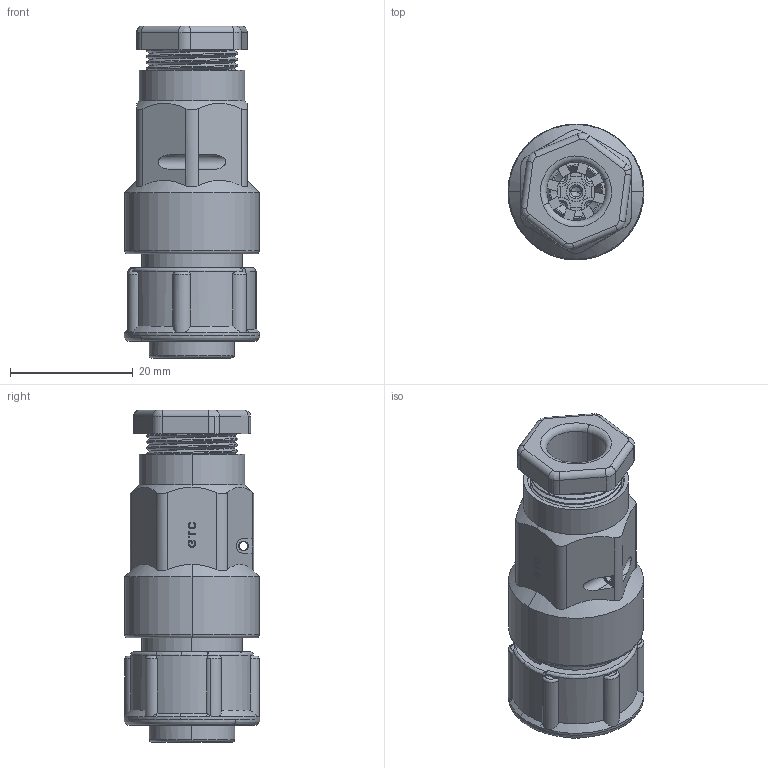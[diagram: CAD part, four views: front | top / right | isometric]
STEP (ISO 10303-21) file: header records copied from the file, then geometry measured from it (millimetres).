
FILE_DESCRIPTION (( 'STEP AP203' ), '1' );
FILE_NAME ('GT153274-23050.STEP', '2018-05-01T14:21:21', ( '' ), ( '' ), 'SwSTEP 2.0', 'SolidWorks 2012', '' );
FILE_SCHEMA (( 'CONFIG_CONTROL_DESIGN' ));
Length unit declared in the file: millimetre
Products named in the file (12): 65153-00030; GT153274-23050; 60153-XB105_02; 65152-00032; 67153-00510; 60152-XB104_01; 51C10-1601x; 60152-X8110; 66153-20040; 60153-X8112_01; 60153-X8123_01; 67153-00110
Assembly tree (15 placements, depth 2):
  GT153274-23050
    60153-X8112_01
    60153-X8123_01
    66153-20040
    67153-00110
    67153-00510
    51C10-1601x  x5
    60152-X8110
    60152-XB104_01
    60153-XB105_02
    65152-00032
    65153-00030
Bounding box: 22.2 x 22.2 x 54.2 mm (x, y, z)
Volume: 11017.6 mm3; surface area: 14461.8 mm2
Topology: 15 solids, 15 shells, 899 faces, 2387 edges, 1526 vertices
Faces by surface type: cylinder 404, plane 283, cone 121, bspline 60, torus 21, sphere 10
Entity records: 36793 total; most frequent: CARTESIAN_POINT 16070, ORIENTED_EDGE 4222, DIRECTION 3921, EDGE_CURVE 2111, AXIS2_PLACEMENT_3D 1482, VERTEX_POINT 1374, VECTOR 957, LINE 957
